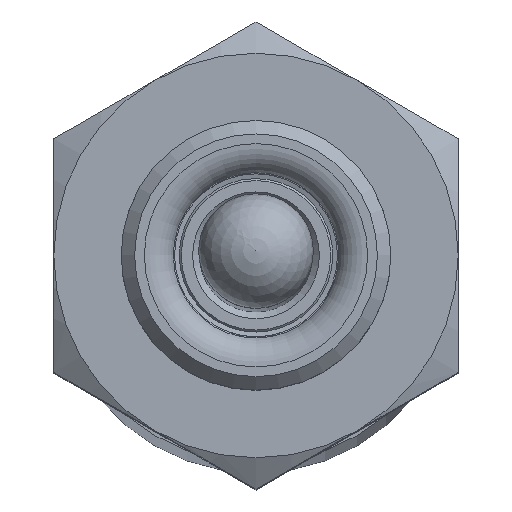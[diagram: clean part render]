
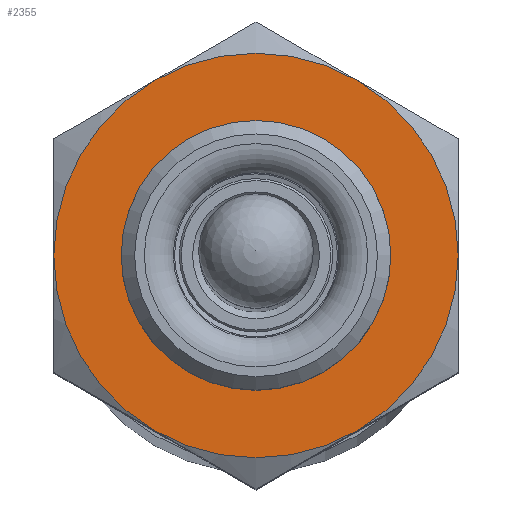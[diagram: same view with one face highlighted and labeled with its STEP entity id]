
A CAD part, top view. The second image highlights one B-rep face of the part: STEP entity #2355.
In plain terms, the highlighted planar face has unit normal (0, 0, 1) as drawn and (1, 0, 0) by its records, which use the part's own axes.
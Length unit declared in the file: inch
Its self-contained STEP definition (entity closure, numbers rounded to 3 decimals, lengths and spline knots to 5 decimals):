
#162=FACE_BOUND('',#540,.T.);
#217=PLANE('',#2737);
#354=FACE_OUTER_BOUND('',#539,.T.);
#539=EDGE_LOOP('',(#1979,#1980,#1981,#1982,#1983,#1984));
#540=EDGE_LOOP('',(#1985));
#943=CIRCLE('',#2736,0.25006);
#944=CIRCLE('',#2738,0.375);
#945=CIRCLE('',#2739,0.375);
#946=CIRCLE('',#2740,0.375);
#947=CIRCLE('',#2741,0.375);
#948=CIRCLE('',#2742,0.375);
#949=CIRCLE('',#2743,0.375);
#1130=VERTEX_POINT('',#4238);
#1131=VERTEX_POINT('',#4242);
#1132=VERTEX_POINT('',#4243);
#1133=VERTEX_POINT('',#4245);
#1134=VERTEX_POINT('',#4247);
#1135=VERTEX_POINT('',#4249);
#1136=VERTEX_POINT('',#4251);
#1414=EDGE_CURVE('',#1130,#1130,#943,.T.);
#1416=EDGE_CURVE('',#1131,#1132,#944,.T.);
#1417=EDGE_CURVE('',#1132,#1133,#945,.T.);
#1418=EDGE_CURVE('',#1133,#1134,#946,.T.);
#1419=EDGE_CURVE('',#1134,#1135,#947,.T.);
#1420=EDGE_CURVE('',#1135,#1136,#948,.T.);
#1421=EDGE_CURVE('',#1136,#1131,#949,.T.);
#1979=ORIENTED_EDGE('',*,*,#1416,.T.);
#1980=ORIENTED_EDGE('',*,*,#1417,.T.);
#1981=ORIENTED_EDGE('',*,*,#1418,.T.);
#1982=ORIENTED_EDGE('',*,*,#1419,.T.);
#1983=ORIENTED_EDGE('',*,*,#1420,.T.);
#1984=ORIENTED_EDGE('',*,*,#1421,.T.);
#1985=ORIENTED_EDGE('',*,*,#1414,.F.);
#2355=ADVANCED_FACE('',(#354,#162),#217,.T.);
#2736=AXIS2_PLACEMENT_3D('',#4239,#3457,#3458);
#2737=AXIS2_PLACEMENT_3D('',#4241,#3460,#3461);
#2738=AXIS2_PLACEMENT_3D('',#4244,#3462,#3463);
#2739=AXIS2_PLACEMENT_3D('',#4246,#3464,#3465);
#2740=AXIS2_PLACEMENT_3D('',#4248,#3466,#3467);
#2741=AXIS2_PLACEMENT_3D('',#4250,#3468,#3469);
#2742=AXIS2_PLACEMENT_3D('',#4252,#3470,#3471);
#2743=AXIS2_PLACEMENT_3D('',#4253,#3472,#3473);
#3457=DIRECTION('center_axis',(1.,0.,0.));
#3458=DIRECTION('ref_axis',(0.,0.,1.));
#3460=DIRECTION('center_axis',(1.,0.,0.));
#3461=DIRECTION('ref_axis',(0.,0.,-1.));
#3462=DIRECTION('center_axis',(1.,0.,0.));
#3463=DIRECTION('ref_axis',(0.,1.,0.));
#3464=DIRECTION('center_axis',(1.,0.,0.));
#3465=DIRECTION('ref_axis',(0.,1.,0.));
#3466=DIRECTION('center_axis',(1.,0.,0.));
#3467=DIRECTION('ref_axis',(0.,1.,0.));
#3468=DIRECTION('center_axis',(1.,0.,0.));
#3469=DIRECTION('ref_axis',(0.,1.,0.));
#3470=DIRECTION('center_axis',(1.,0.,0.));
#3471=DIRECTION('ref_axis',(0.,1.,0.));
#3472=DIRECTION('center_axis',(1.,0.,0.));
#3473=DIRECTION('ref_axis',(0.,1.,0.));
#4238=CARTESIAN_POINT('',(0.448,0.,-0.25006));
#4239=CARTESIAN_POINT('Origin',(0.448,0.,0.));
#4241=CARTESIAN_POINT('Origin',(0.448,0.,0.));
#4242=CARTESIAN_POINT('',(0.448,-0.32476,-0.1875));
#4243=CARTESIAN_POINT('',(0.448,0.,-0.375));
#4244=CARTESIAN_POINT('Origin',(0.448,0.,0.));
#4245=CARTESIAN_POINT('',(0.448,0.32476,-0.1875));
#4246=CARTESIAN_POINT('Origin',(0.448,0.,0.));
#4247=CARTESIAN_POINT('',(0.448,0.32476,0.1875));
#4248=CARTESIAN_POINT('Origin',(0.448,0.,0.));
#4249=CARTESIAN_POINT('',(0.448,0.,0.375));
#4250=CARTESIAN_POINT('Origin',(0.448,0.,0.));
#4251=CARTESIAN_POINT('',(0.448,-0.32476,0.1875));
#4252=CARTESIAN_POINT('Origin',(0.448,0.,0.));
#4253=CARTESIAN_POINT('Origin',(0.448,0.,0.));
